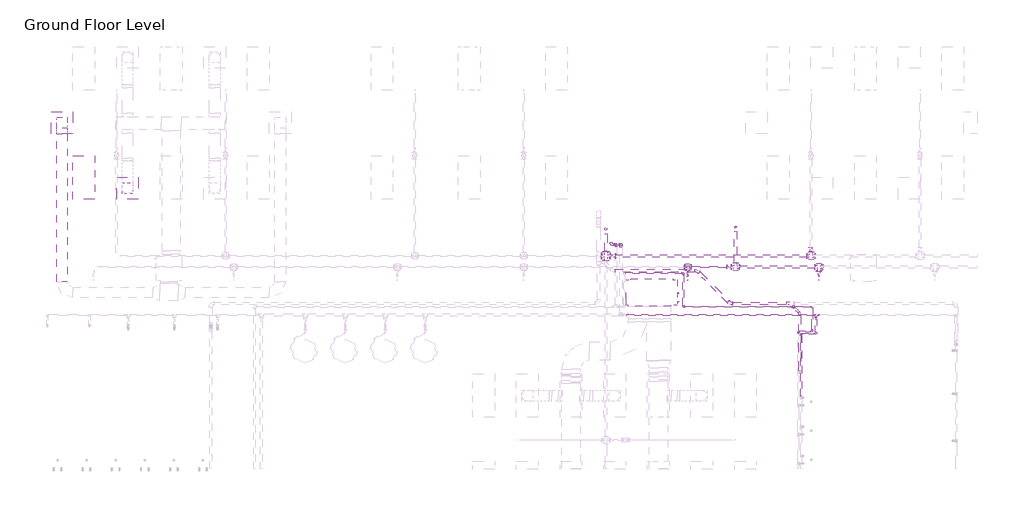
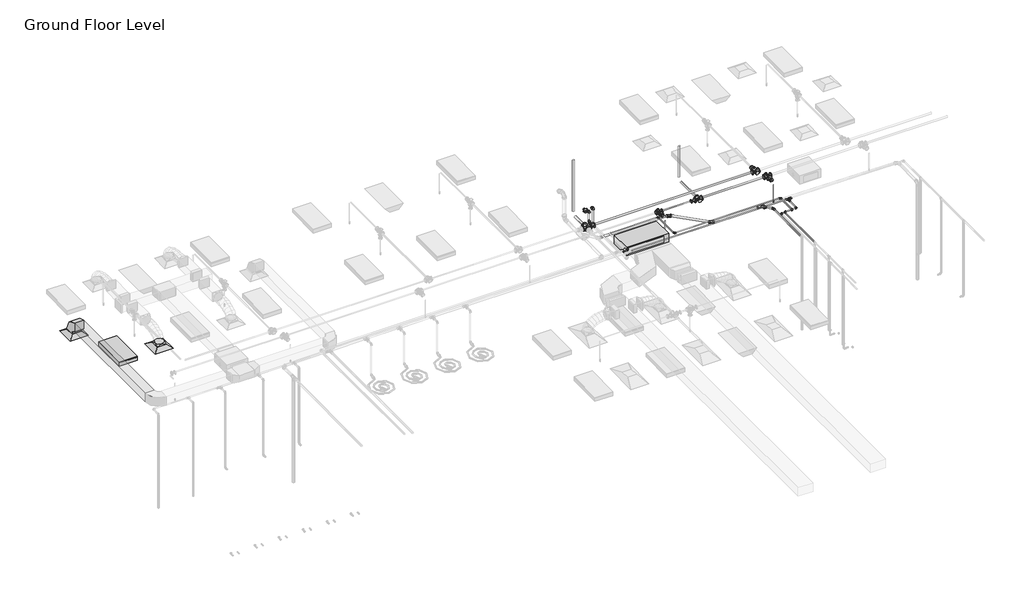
# One storey, part 51 of 66: 31 pipe fittings, 27 pipe segments, 2 air terminals, 2 duct fittings, 2 duct segments, 2 fire suppression terminals, 1 light fixture, 1 proxy.
"""IFC4 building model written with IfcOpenShell, lengths in millimetres."""

from ifc_helpers import new_model, si_unit, point, frame, frame_2d, origin, place, context, project, spatial, polyline, circle_curve, trimmed, segment, composite_curve, outline, extrude, transform, mapped, element, save
from components import m_return_diffuser_600_x_600_face_300_x_300_connection_ff221211, fcu_daikin_iu_5a1bd61d, m_rectangular_elbow_radius_1_w_618da153, m_rectangular_to_round_transition_angle_45_degree_641efff0, m_sprinkler_pendent_15_mm_pendent_06fcbd8e, m_troffer_light_parabolic_rectangular1_0600x1200mm_4_lamp_86473d4a, m_bend_pvc_sch_40_dwv_standard_9e3ead78, m_bend_pvc_sch_40_dwv_standard_3e306cb9, m_cross_flanged_cs_class_150_standard_72237f6b, m_reducer_flanged_cs_class_150_standard_ccf252ad, m_reducer_flanged_cs_class_150_standard_a7631c35, m_reducer_flanged_cs_class_150_standard_55262df0, m_reducer_flanged_cs_class_150_standard_50093ec8, m_reducer_pvc_sch_40_dwv_standard_daff2b06, m_tee_pvc_sch_40_standard_5dbb3026, m_tee_round_base_flanged_cs_class_150_standard_dd767e04, m_tee_round_base_flanged_cs_class_150_standard_7e5987a1, standard_517a5a8d, standard_08ff6011, standard_d0d0b892, standard_57727813, standard_102e5625

model = new_model("IFC4")

# Units and contexts
model_context = context("Model", 3, world=origin())
ifc_project = project(units=[si_unit("LENGTHUNIT", "METRE", prefix="MILLI")], contexts=[model_context])

# Site, building, storey
site = spatial("IfcSite", under=ifc_project)
building = spatial("IfcBuilding", under=site)
storey = spatial("IfcBuildingStorey", under=building, Name="Ground Floor Level", Elevation=900.0)

# Air terminals
placement = place(None, origin())
m_return_diffuser_600_x_600_face_300_x_300_connection_shape = m_return_diffuser_600_x_600_face_300_x_300_connection_ff221211(model_context)
element("IfcAirTerminal", 1, ObjectType="M_Return Diffuser : 600 x 600 Face 300 x 300 Connection", at=placement, inside=storey, context=model_context, shape_type="MappedRepresentation", body=[
    mapped(m_return_diffuser_600_x_600_face_300_x_300_connection_shape, transform((-20937.2327605, 18735.2153534, 3650.0), x_axis=(1.0, 0.0, 0.0), y_axis=(0.0, 1.0, 0.0), z_axis=(0.0, 0.0, 1.0))),
])
element("IfcAirTerminal", 2, ObjectType="M_Supply Diffuser : 600 x 600 Face 300 x 300 Connection", at=placement, inside=storey, context=model_context, shape_type="MappedRepresentation", body=[
    mapped(m_return_diffuser_600_x_600_face_300_x_300_connection_shape, transform((-19137.2327605, 16935.2153534, 3650.0), x_axis=(1.0, 0.0, 0.0), y_axis=(0.0, 1.0, 0.0), z_axis=(0.0, 0.0, 1.0))),
])

# Proxy
fcu_daikin_iu_shape = fcu_daikin_iu_5a1bd61d(model_context)
element("IfcBuildingElementProxy", 3, Name="FCU-DAIKIN IU : 12.9kW, 230V/50Hz/1Ph", ObjectType="FCU-DAIKIN IU : 12.9kW, 230V/50Hz/1Ph", at=placement, inside=storey, context=model_context, shape_type="MappedRepresentation", body=[
    mapped(fcu_daikin_iu_shape, transform((-4715.1910789, 14069.8153534, 3984.0925223), x_axis=(1.0, 0.0, 0.0), y_axis=(0.0, 1.0, 0.0), z_axis=(0.0, 0.0, 1.0))),
])

# Duct fittings
m_rectangular_elbow_radius_1_w_shape = m_rectangular_elbow_radius_1_w_618da153(model_context)
element("IfcDuctFitting", 4, ObjectType="M_Rectangular Elbow - Radius : 1 W", at=placement, inside=storey, context=model_context, shape_type="MappedRepresentation", body=[
    mapped(m_rectangular_elbow_radius_1_w_shape, transform((-20937.2327605, 18735.2153534, 4075.2881511), x_axis=(0.0, 0.0, 1.0), y_axis=(0.0, -1.0, 0.0), z_axis=(1.0, 0.0, 0.0))),
])
m_rectangular_to_round_transition_angle_45_degree_shape = m_rectangular_to_round_transition_angle_45_degree_641efff0(model_context)
element("IfcDuctFitting", 5, ObjectType="M_Rectangular to Round Transition - Angle : 45 Degree", at=placement, inside=storey, context=model_context, shape_type="MappedRepresentation", body=[
    mapped(m_rectangular_to_round_transition_angle_45_degree_shape, transform((-19137.2327605, 16935.2153534, 3751.6), x_axis=(0.0, 0.0, 1.0), y_axis=(-1.0, 0.0, 0.0), z_axis=(0.0, -1.0, 0.0))),
])

# Duct segments
element("IfcDuctSegment", 6, ObjectType="Radius Elbows / Taps", at=placement, inside=storey, context=model_context, shape_type="SweptSolid", body=[
    extrude(outline(polyline([(-20787.2327605, 14369.8153534), (-21087.2327605, 14369.8153534), (-21087.2327605, 18435.2153534), (-20787.2327605, 18435.2153534), (-20787.2327605, 14369.8153534)])), frame((0.0, 0.0, 3925.2881511), z_axis=(0.0, 0.0, 1.0), x_axis=(1.0, 0.0, 0.0)), (0.0, 0.0, 1.0), 300.0),
])
element("IfcDuctSegment", 7, ObjectType="Radius Elbows / Taps", at=placement, inside=storey, context=model_context, shape_type="SweptSolid", body=[
    extrude(outline(polyline([(-20787.2327605, 18585.2153534), (-21087.2327605, 18585.2153534), (-21087.2327605, 18885.2153534), (-20787.2327605, 18885.2153534), (-20787.2327605, 18585.2153534)])), frame((0.0, 0.0, 3751.6), z_axis=(0.0, 0.0, 1.0), x_axis=(1.0, 0.0, 0.0)), (0.0, 0.0, 1.0), 23.6881511),
])

# Fire suppression terminals
m_sprinkler_pendent_15_mm_pendent_shape = m_sprinkler_pendent_15_mm_pendent_06fcbd8e(model_context)
element("IfcFireSuppressionTerminal", 8, ObjectType="M_Sprinkler - Pendent : 15 mm Pendent", at=placement, inside=storey, context=model_context, shape_type="MappedRepresentation", body=[
    mapped(m_sprinkler_pendent_15_mm_pendent_shape, transform((-3723.9852405, 14413.1701264, 3650.0), x_axis=(1.0, 0.0, 0.0), y_axis=(0.0, 1.0, 0.0), z_axis=(0.0, 0.0, 1.0))),
])
element("IfcFireSuppressionTerminal", 9, ObjectType="M_Sprinkler - Pendent : 15 mm Pendent", at=placement, inside=storey, context=model_context, shape_type="MappedRepresentation", body=[
    mapped(m_sprinkler_pendent_15_mm_pendent_shape, transform((-118.3252882, 14412.7243649, 3650.0), x_axis=(1.0, 0.0, 0.0), y_axis=(0.0, 1.0, 0.0), z_axis=(0.0, 0.0, 1.0))),
])

# Light fixture
m_troffer_light_parabolic_rectangular1_0600x1200mm_4_lamp_shape = m_troffer_light_parabolic_rectangular1_0600x1200mm_4_lamp_86473d4a(model_context)
element("IfcLightFixture", 10, ObjectType="M_Troffer Light - Parabolic Rectangular1 : 0600x1200mm(4 Lamp) - 277V 2", at=placement, inside=storey, context=model_context, shape_type="MappedRepresentation", body=[
    mapped(m_troffer_light_parabolic_rectangular1_0600x1200mm_4_lamp_shape, transform((-20396.6986926, 17253.918855, 3650.0), x_axis=(0.0, 1.0, 0.0), y_axis=(-1.0, 0.0, 0.0), z_axis=(0.0, 0.0, 1.0))),
])

# Pipe fittings
m_bend_pvc_sch_40_dwv_standard_shape = m_bend_pvc_sch_40_dwv_standard_9e3ead78(model_context)
element("IfcPipeFitting", 11, ObjectType="M_Bend - PVC - Sch 40 - DWV : Standard", at=placement, inside=storey, context=model_context, shape_type="MappedRepresentation", body=[
    mapped(m_bend_pvc_sch_40_dwv_standard_shape, transform((-3461.339311, 14668.7334723, 4139.7239678), x_axis=(-0.707093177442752, 0.7070575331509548, 0.009427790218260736), y_axis=(-0.7070496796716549, -0.7071481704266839, 0.004713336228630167), z_axis=(0.009999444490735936, -0.003333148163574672, 0.9999444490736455))),
])
element("IfcPipeFitting", 12, ObjectType="M_Bend - PVC - Sch 40 - DWV : Standard", at=placement, inside=storey, context=model_context, shape_type="MappedRepresentation", body=[
    mapped(m_bend_pvc_sch_40_dwv_standard_shape, transform((-2561.2921336, 13768.7316659, 4127.72349), x_axis=(0.7070931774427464, -0.7070575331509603, -0.009427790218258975), y_axis=(0.7070496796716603, 0.7071481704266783, -0.0047133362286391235), z_axis=(0.009999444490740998, -0.003333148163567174, 0.9999444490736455))),
])
m_bend_pvc_sch_40_dwv_standard_2_shape = m_bend_pvc_sch_40_dwv_standard_3e306cb9(model_context)
element("IfcPipeFitting", 13, ObjectType="M_Bend - PVC - Sch 40 - DWV : Standard", at=placement, inside=storey, context=model_context, shape_type="MappedRepresentation", body=[
    mapped(m_bend_pvc_sch_40_dwv_standard_2_shape, transform((-642.2357232, 13495.4654482, 4110.1731446), x_axis=(0.0, 0.9999500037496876, 0.009999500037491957), y_axis=(-0.9999912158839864, -4.191228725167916e-05, 0.004191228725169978), z_axis=(0.004191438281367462, -0.00999941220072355, 0.9999412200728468))),
])
m_cross_flanged_cs_class_150_standard_shape = m_cross_flanged_cs_class_150_standard_72237f6b(model_context)
element("IfcPipeFitting", 14, ObjectType="M_Cross - Flanged - CS - Class 150 : Standard", at=placement, inside=storey, context=model_context, shape_type="MappedRepresentation", body=[
    mapped(m_cross_flanged_cs_class_150_standard_shape, transform((-5978.130502, 15073.2009828, 4360.0), x_axis=(-1.0, 0.0, 0.0), y_axis=(0.0, -1.0, 0.0), z_axis=(0.0, 0.0, 1.0))),
])
m_reducer_flanged_cs_class_150_standard_shape = m_reducer_flanged_cs_class_150_standard_ccf252ad(model_context)
element("IfcPipeFitting", 15, ObjectType="M_Reducer - Flanged - CS - Class 150 : Standard", at=placement, inside=storey, context=model_context, shape_type="MappedRepresentation", body=[
    mapped(m_reducer_flanged_cs_class_150_standard_shape, transform((-3723.9852405, 14672.759591, 4291.0943441), x_axis=(0.0, -1.0, 0.0), y_axis=(1.0, 0.0, 0.0), z_axis=(0.0, 0.0, 1.0))),
])
m_reducer_flanged_cs_class_150_standard_2_shape = m_reducer_flanged_cs_class_150_standard_a7631c35(model_context)
element("IfcPipeFitting", 16, ObjectType="M_Reducer - Flanged - CS - Class 150 : Standard", at=placement, inside=storey, context=model_context, shape_type="MappedRepresentation", body=[
    mapped(m_reducer_flanged_cs_class_150_standard_2_shape, transform((-2527.9259545, 14773.4681847, 4291.0943441), x_axis=(-1.0, 0.0, 0.0), y_axis=(0.0, -1.0, 0.0), z_axis=(0.0, 0.0, 1.0))),
])
element("IfcPipeFitting", 17, ObjectType="M_Reducer - Flanged - CS - Class 150 : Standard", at=placement, inside=storey, context=model_context, shape_type="MappedRepresentation", body=[
    mapped(m_reducer_flanged_cs_class_150_standard_2_shape, transform((-337.2327605, 15187.2009828, 4360.0), x_axis=(0.0, 1.0, 0.0), y_axis=(-1.0, 0.0, 0.0), z_axis=(0.0, 0.0, 1.0))),
])
m_reducer_flanged_cs_class_150_standard_3_shape = m_reducer_flanged_cs_class_150_standard_55262df0(model_context)
element("IfcPipeFitting", 18, ObjectType="M_Reducer - Flanged - CS - Class 150 : Standard", at=placement, inside=storey, context=model_context, shape_type="MappedRepresentation", body=[
    mapped(m_reducer_flanged_cs_class_150_standard_3_shape, transform((-118.3252882, 14659.4681847, 4291.0943441), x_axis=(0.0, -1.0, 0.0), y_axis=(1.0, 0.0, 0.0), z_axis=(0.0, 0.0, 1.0))),
])
m_reducer_flanged_cs_class_150_standard_4_shape = m_reducer_flanged_cs_class_150_standard_50093ec8(model_context)
element("IfcPipeFitting", 19, ObjectType="M_Reducer - Flanged - CS - Class 150 : Standard", at=placement, inside=storey, context=model_context, shape_type="MappedRepresentation", body=[
    mapped(m_reducer_flanged_cs_class_150_standard_4_shape, transform((-5851.130502, 15073.2009828, 4360.0), x_axis=(1.0, 0.0, 0.0), y_axis=(0.0, 1.0, 0.0), z_axis=(0.0, 0.0, 1.0))),
])
m_reducer_pvc_sch_40_dwv_standard_shape = m_reducer_pvc_sch_40_dwv_standard_daff2b06(model_context)
element("IfcPipeFitting", 20, ObjectType="M_Reducer - PVC - Sch 40 - DWV : Standard", at=placement, inside=storey, context=model_context, shape_type="MappedRepresentation", body=[
    mapped(m_reducer_pvc_sch_40_dwv_standard_shape, transform((-843.6840301, 13696.9036229, 4110.2439857), x_axis=(0.7070889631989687, -0.7070533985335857, -0.010034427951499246), y_axis=(0.707053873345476, 0.7071477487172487, -0.004108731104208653), z_axis=(0.010000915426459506, -0.004189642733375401, 0.9999412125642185))),
])
m_tee_pvc_sch_40_standard_shape = m_tee_pvc_sch_40_standard_5dbb3026(model_context)
element("IfcPipeFitting", 21, ObjectType="M_Tee - PVC - Sch 40 : Standard", at=placement, inside=storey, context=model_context, shape_type="MappedRepresentation", body=[
    mapped(m_tee_pvc_sch_40_standard_shape, transform((-915.515686, 13768.7316659, 4111.2633618), x_axis=(-0.9999499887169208, 0.0, 0.010001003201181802), y_axis=(4.190063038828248e-05, 0.9999912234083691, 0.004189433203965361), z_axis=(-0.010000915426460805, 0.004189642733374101, -0.9999412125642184))),
])
m_tee_round_base_flanged_cs_class_150_standard_shape = m_tee_round_base_flanged_cs_class_150_standard_dd767e04(model_context)
element("IfcPipeFitting", 22, ObjectType="M_Tee Round Base - Flanged - CS - Class 150 : Standard", at=placement, inside=storey, context=model_context, shape_type="MappedRepresentation", body=[
    mapped(m_tee_round_base_flanged_cs_class_150_standard_shape, transform((-118.3252882, 14773.4681847, 4291.0943441), x_axis=(-1.0, 0.0, 0.0), y_axis=(0.0, 1.0, 0.0), z_axis=(0.0, 0.0, -1.0))),
])
element("IfcPipeFitting", 23, ObjectType="M_Tee Round Base - Flanged - CS - Class 150 : Standard", at=placement, inside=storey, context=model_context, shape_type="MappedRepresentation", body=[
    mapped(m_tee_round_base_flanged_cs_class_150_standard_shape, transform((-2413.9259545, 14773.4681847, 4291.0943441), x_axis=(-1.0, 0.0, 0.0), y_axis=(0.0, -1.0, 0.0), z_axis=(0.0, 0.0, 1.0))),
])
element("IfcPipeFitting", 24, ObjectType="M_Tee Round Base - Flanged - CS - Class 150 : Standard", at=placement, inside=storey, context=model_context, shape_type="MappedRepresentation", body=[
    mapped(m_tee_round_base_flanged_cs_class_150_standard_shape, transform((-337.2327605, 15073.2009828, 4360.0), x_axis=(-1.0, 0.0, 0.0), y_axis=(0.0, -1.0, 0.0), z_axis=(0.0, 0.0, 1.0))),
])
m_tee_round_base_flanged_cs_class_150_standard_2_shape = m_tee_round_base_flanged_cs_class_150_standard_7e5987a1(model_context)
element("IfcPipeFitting", 25, ObjectType="M_Tee Round Base - Flanged - CS - Class 150 : Standard", at=placement, inside=storey, context=model_context, shape_type="MappedRepresentation", body=[
    mapped(m_tee_round_base_flanged_cs_class_150_standard_2_shape, transform((-3723.9852405, 14773.4681847, 4291.0943441), x_axis=(-1.0, 0.0, 0.0), y_axis=(0.0, 1.0, 0.0), z_axis=(0.0, 0.0, -1.0))),
])
standard_shape = standard_517a5a8d(model_context)
element("IfcPipeFitting", 26, ObjectType="M_Elbow - CPVC - Sch 40 : Standard", at=placement, inside=storey, context=model_context, shape_type="MappedRepresentation", body=[
    mapped(standard_shape, transform((-607.2327605, 12935.5128345, 4315.0), x_axis=(-1.0, 0.0, 0.0), y_axis=(0.0, -1.0, 0.0), z_axis=(0.0, 0.0, 1.0))),
])
element("IfcPipeFitting", 27, ObjectType="M_Elbow - CPVC - Sch 40 : Standard", at=placement, inside=storey, context=model_context, shape_type="MappedRepresentation", body=[
    mapped(standard_shape, transform((-197.2327605, 12935.5128345, 4315.0), x_axis=(1.0, 0.0, 0.0), y_axis=(0.0, 1.0, 0.0), z_axis=(0.0, 0.0, 1.0))),
])
element("IfcPipeFitting", 28, ObjectType="M_Elbow - CPVC - Sch 40 : Standard", at=placement, inside=storey, context=model_context, shape_type="MappedRepresentation", body=[
    mapped(standard_shape, transform((-304.0671674, 13675.2153534, 4250.0), x_axis=(0.0, 1.0, 0.0), y_axis=(-1.0, 0.0, 0.0), z_axis=(0.0, 0.0, 1.0))),
])
element("IfcPipeFitting", 29, ObjectType="M_Elbow - CPVC - Sch 40 : Standard", at=placement, inside=storey, context=model_context, shape_type="MappedRepresentation", body=[
    mapped(standard_shape, transform((-304.0671674, 12995.2153534, 4250.0), x_axis=(1.0, 0.0, 0.0), y_axis=(0.0, 1.0, 0.0), z_axis=(0.0, 0.0, 1.0))),
])
element("IfcPipeFitting", 30, ObjectType="M_Elbow - CPVC - Sch 40 : Standard", at=placement, inside=storey, context=model_context, shape_type="MappedRepresentation", body=[
    mapped(standard_shape, transform((-684.0671674, 12995.2153534, 4250.0), x_axis=(-1.0, 0.0, 0.0), y_axis=(0.0, -1.0, 0.0), z_axis=(0.0, 0.0, 1.0))),
])
element("IfcPipeFitting", 31, ObjectType="M_Elbow - CPVC - Sch 40 : Standard", at=placement, inside=storey, context=model_context, shape_type="MappedRepresentation", body=[
    mapped(standard_shape, transform((-3846.4489567, 14603.43487, 4250.0), x_axis=(0.0, 1.0, 0.0), y_axis=(-1.0, 0.0, 0.0), z_axis=(0.0, 0.0, 1.0))),
])
element("IfcPipeFitting", 32, ObjectType="M_Elbow - CPVC - Sch 40 : Standard", at=placement, inside=storey, context=model_context, shape_type="MappedRepresentation", body=[
    mapped(standard_shape, transform((-3846.4489567, 13675.2153534, 4250.0), x_axis=(0.0, -1.0, 0.0), y_axis=(1.0, 0.0, 0.0), z_axis=(0.0, 0.0, 1.0))),
])
standard_2_shape = standard_08ff6011(model_context)
element("IfcPipeFitting", 33, ObjectType="M_Tee - CPVC - Sch 40 : Standard", at=placement, inside=storey, context=model_context, shape_type="MappedRepresentation", body=[
    mapped(standard_2_shape, transform((-197.2327605, 13449.9865561, 4315.0), x_axis=(1.0, 0.0, 0.0), y_axis=(0.0, 1.0, 0.0), z_axis=(0.0, 0.0, 1.0))),
])
standard_3_shape = standard_d0d0b892(model_context)
element("IfcPipeFitting", 34, ObjectType="M_Coupling Reducing - CPVC - Sch 40 : Standard", at=placement, inside=storey, context=model_context, shape_type="MappedRepresentation", body=[
    mapped(standard_3_shape, transform((-143.2577605, 13449.9865561, 4315.0), x_axis=(1.0, 0.0, 0.0), y_axis=(0.0, 1.0, 0.0), z_axis=(0.0, 0.0, 1.0))),
])
element("IfcPipeFitting", 35, ObjectType="M_Coupling Reducing - CPVC - Sch 40 : Standard", at=placement, inside=storey, context=model_context, shape_type="MappedRepresentation", body=[
    mapped(standard_3_shape, transform((-197.2327605, 13396.0115561, 4315.0), x_axis=(0.0, -1.0, 0.0), y_axis=(1.0, 0.0, 0.0), z_axis=(0.0, 0.0, 1.0))),
])
standard_4_shape = standard_57727813(model_context)
element("IfcPipeFitting", 36, ObjectType="M_Elbow - CPVC - Sch 40 : Standard", at=placement, inside=storey, context=model_context, shape_type="MappedRepresentation", body=[
    mapped(standard_4_shape, transform((-5560.8713756, 15385.5016509, 4719.8375), x_axis=(0.0, 0.0, 1.0), y_axis=(-0.997564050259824, 0.06975647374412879, 0.0), z_axis=(-0.06975647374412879, -0.997564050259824, 0.0))),
])
element("IfcPipeFitting", 37, ObjectType="M_Elbow - CPVC - Sch 40 : Standard", at=placement, inside=storey, context=model_context, shape_type="MappedRepresentation", body=[
    mapped(standard_4_shape, transform((-5831.0029399, 15389.9865561, 4719.8375), x_axis=(0.0, -1.0, 0.0), y_axis=(1.0, 0.0, 0.0), z_axis=(0.0, 0.0, 1.0))),
])
element("IfcPipeFitting", 38, ObjectType="M_Elbow - CPVC - Sch 40 : Standard", at=placement, inside=storey, context=model_context, shape_type="MappedRepresentation", body=[
    mapped(standard_4_shape, transform((-5560.8713756, 15385.5016509, 4090.0), x_axis=(0.0, 0.0, -1.0), y_axis=(0.0, -1.0, 0.0), z_axis=(-1.0, 0.0, 0.0))),
])
standard_5_shape = standard_102e5625(model_context)
element("IfcPipeFitting", 39, ObjectType="M_Elbow - CPVC - Sch 40 : Standard", at=placement, inside=storey, context=model_context, shape_type="MappedRepresentation", body=[
    mapped(standard_5_shape, transform((-5698.3060147, 15389.9865561, 4250.0), x_axis=(0.0, 1.0, 0.0), y_axis=(0.0, 0.0, 1.0), z_axis=(1.0, 0.0, 0.0))),
])
element("IfcPipeFitting", 40, ObjectType="M_Elbow - CPVC - Sch 40 : Standard", at=placement, inside=storey, context=model_context, shape_type="MappedRepresentation", body=[
    mapped(standard_5_shape, transform((-5698.3060147, 15389.9865561, 4650.0), x_axis=(0.0, 0.0, 1.0), y_axis=(-1.0, 0.0, 0.0), z_axis=(0.0, -1.0, 0.0))),
])
element("IfcPipeFitting", 41, ObjectType="M_Elbow - CPVC - Sch 40 : Standard", at=placement, inside=storey, context=model_context, shape_type="MappedRepresentation", body=[
    mapped(standard_5_shape, transform((-5831.0029399, 15389.9865561, 4650.0), x_axis=(0.0, -1.0, 0.0), y_axis=(1.0, 0.0, 0.0), z_axis=(0.0, 0.0, 1.0))),
])

# Pipe segments
element("IfcPipeSegment", 42, ObjectType="CPVC", at=placement, inside=storey, context=model_context, shape_type="SweptSolid", body=[
    extrude(outline(composite_curve([segment(trimmed(circle_curve(frame_2d((4315.0, -607.2327605)), 16.7005), [point((4315.0, -590.5322605))], [point((4331.7005, -607.2327605))], False, "CARTESIAN"), True, "CONTINUOUS"), segment(trimmed(circle_curve(frame_2d((4315.0, -607.2327605)), 16.7005), [point((4331.7005, -607.2327605))], [point((4315.0, -623.9332605))], False, "CARTESIAN"), True, "CONTINUOUS"), segment(trimmed(circle_curve(frame_2d((4315.0, -607.2327605)), 16.7005), [point((4315.0, -623.9332605))], [point((4298.2995, -607.2327605))], False, "CARTESIAN"), True, "CONTINUOUS"), segment(trimmed(circle_curve(frame_2d((4315.0, -607.2327605)), 16.7005), [point((4298.2995, -607.2327605))], [point((4315.0, -590.5322605))], False, "CARTESIAN"), True, "CONTINUOUS")], self_intersect=False)), frame((0.0, 11215.2130345, 0.0), z_axis=(0.0, 1.0, 0.0), x_axis=(0.0, 0.0, 1.0)), (0.0, 0.0, 1.0), 1677.03725),
])
element("IfcPipeSegment", 43, ObjectType="CPVC", at=placement, inside=storey, context=model_context, shape_type="SweptSolid", body=[
    extrude(outline(composite_curve([segment(trimmed(circle_curve(frame_2d((12935.5128345, 4315.0)), 16.7005), [point((12918.8123345, 4315.0))], [point((12935.5128345, 4331.7005))], False, "CARTESIAN"), True, "CONTINUOUS"), segment(trimmed(circle_curve(frame_2d((12935.5128345, 4315.0)), 16.7005), [point((12935.5128345, 4331.7005))], [point((12952.2133345, 4315.0))], False, "CARTESIAN"), True, "CONTINUOUS"), segment(trimmed(circle_curve(frame_2d((12935.5128345, 4315.0)), 16.7005), [point((12952.2133345, 4315.0))], [point((12935.5128345, 4298.2995))], False, "CARTESIAN"), True, "CONTINUOUS"), segment(trimmed(circle_curve(frame_2d((12935.5128345, 4315.0)), 16.7005), [point((12935.5128345, 4298.2995))], [point((12918.8123345, 4315.0))], False, "CARTESIAN"), True, "CONTINUOUS")], self_intersect=False)), frame((-563.9702105, 0.0, 0.0), z_axis=(1.0, 0.0, 0.0), x_axis=(0.0, 1.0, 0.0)), (0.0, 0.0, 1.0), 323.4749),
])
element("IfcPipeSegment", 44, ObjectType="CPVC", at=placement, inside=storey, context=model_context, shape_type="SweptSolid", body=[
    extrude(outline(composite_curve([segment(trimmed(circle_curve(frame_2d((4315.0, -197.2327605)), 16.7005), [point((4315.0, -180.5322605))], [point((4331.7005, -197.2327605))], False, "CARTESIAN"), True, "CONTINUOUS"), segment(trimmed(circle_curve(frame_2d((4315.0, -197.2327605)), 16.7005), [point((4331.7005, -197.2327605))], [point((4315.0, -213.9332605))], False, "CARTESIAN"), True, "CONTINUOUS"), segment(trimmed(circle_curve(frame_2d((4315.0, -197.2327605)), 16.7005), [point((4315.0, -213.9332605))], [point((4298.2995, -197.2327605))], False, "CARTESIAN"), True, "CONTINUOUS"), segment(trimmed(circle_curve(frame_2d((4315.0, -197.2327605)), 16.7005), [point((4298.2995, -197.2327605))], [point((4315.0, -180.5322605))], False, "CARTESIAN"), True, "CONTINUOUS")], self_intersect=False)), frame((0.0, 12978.7753845, 0.0), z_axis=(0.0, 1.0, 0.0), x_axis=(0.0, 0.0, 1.0)), (0.0, 0.0, 1.0), 351.1172966),
])
element("IfcPipeSegment", 45, ObjectType="CPVC", at=placement, inside=storey, context=model_context, shape_type="SweptSolid", body=[
    extrude(outline(composite_curve([segment(trimmed(circle_curve(frame_2d((13449.9865561, 4315.0)), 21.082), [point((13471.0685561, 4315.0))], [point((13449.9865561, 4293.918))], False, "CARTESIAN"), True, "CONTINUOUS"), segment(trimmed(circle_curve(frame_2d((13449.9865561, 4315.0)), 21.082), [point((13449.9865561, 4293.918))], [point((13428.9045561, 4315.0))], False, "CARTESIAN"), True, "CONTINUOUS"), segment(trimmed(circle_curve(frame_2d((13449.9865561, 4315.0)), 21.082), [point((13428.9045561, 4315.0))], [point((13449.9865561, 4336.082))], False, "CARTESIAN"), True, "CONTINUOUS"), segment(trimmed(circle_curve(frame_2d((13449.9865561, 4315.0)), 21.082), [point((13449.9865561, 4336.082))], [point((13471.0685561, 4315.0))], False, "CARTESIAN"), True, "CONTINUOUS")], self_intersect=False)), frame((-5401.6556136, 0.0, 0.0), z_axis=(1.0, 0.0, 0.0), x_axis=(0.0, 1.0, 0.0)), (0.0, 0.0, 1.0), 5150.4478531),
])
element("IfcPipeSegment", 46, ObjectType="CPVC", at=placement, inside=storey, context=model_context, shape_type="SweptSolid", body=[
    extrude(outline(composite_curve([segment(trimmed(circle_curve(frame_2d((-5698.3060147, 15389.9865561)), 24.13), [point((-5722.4360147, 15389.9865561))], [point((-5698.3060147, 15414.1165561))], False, "CARTESIAN"), True, "CONTINUOUS"), segment(trimmed(circle_curve(frame_2d((-5698.3060147, 15389.9865561)), 24.13), [point((-5698.3060147, 15414.1165561))], [point((-5674.1760147, 15389.9865561))], False, "CARTESIAN"), True, "CONTINUOUS"), segment(trimmed(circle_curve(frame_2d((-5698.3060147, 15389.9865561)), 24.13), [point((-5674.1760147, 15389.9865561))], [point((-5698.3060147, 15365.8565561))], False, "CARTESIAN"), True, "CONTINUOUS"), segment(trimmed(circle_curve(frame_2d((-5698.3060147, 15389.9865561)), 24.13), [point((-5698.3060147, 15365.8565561))], [point((-5722.4360147, 15389.9865561))], False, "CARTESIAN"), True, "CONTINUOUS")], self_intersect=False)), frame((0.0, 0.0, 4312.71895), z_axis=(0.0, 0.0, 1.0), x_axis=(1.0, 0.0, 0.0)), (0.0, 0.0, 1.0), 274.5621),
])
element("IfcPipeSegment", 47, ObjectType="CPVC", at=placement, inside=storey, context=model_context, shape_type="SweptSolid", body=[
    extrude(outline(composite_curve([segment(trimmed(circle_curve(frame_2d((-5560.8713756, 15385.5016509)), 30.1625), [point((-5591.0338756, 15385.5016509))], [point((-5560.8713756, 15415.6641509))], False, "CARTESIAN"), True, "CONTINUOUS"), segment(trimmed(circle_curve(frame_2d((-5560.8713756, 15385.5016509)), 30.1625), [point((-5560.8713756, 15415.6641509))], [point((-5530.7088756, 15385.5016509))], False, "CARTESIAN"), True, "CONTINUOUS"), segment(trimmed(circle_curve(frame_2d((-5560.8713756, 15385.5016509)), 30.1625), [point((-5530.7088756, 15385.5016509))], [point((-5560.8713756, 15355.3391509))], False, "CARTESIAN"), True, "CONTINUOUS"), segment(trimmed(circle_curve(frame_2d((-5560.8713756, 15385.5016509)), 30.1625), [point((-5560.8713756, 15355.3391509))], [point((-5591.0338756, 15385.5016509))], False, "CARTESIAN"), True, "CONTINUOUS")], self_intersect=False)), frame((0.0, 0.0, 4154.29375), z_axis=(0.0, 0.0, 1.0), x_axis=(1.0, 0.0, 0.0)), (0.0, 0.0, 1.0), 501.25),
])
element("IfcPipeSegment", 48, ObjectType="CPVC", at=placement, inside=storey, context=model_context, shape_type="SweptSolid", body=[
    extrude(outline(composite_curve([segment(trimmed(circle_curve(frame_2d((4250.0, -304.0671674)), 16.7005), [point((4250.0, -320.7676674))], [point((4233.2995, -304.0671674))], False, "CARTESIAN"), True, "CONTINUOUS"), segment(trimmed(circle_curve(frame_2d((4250.0, -304.0671674)), 16.7005), [point((4233.2995, -304.0671674))], [point((4250.0, -287.3666674))], False, "CARTESIAN"), True, "CONTINUOUS"), segment(trimmed(circle_curve(frame_2d((4250.0, -304.0671674)), 16.7005), [point((4250.0, -287.3666674))], [point((4266.7005, -304.0671674))], False, "CARTESIAN"), True, "CONTINUOUS"), segment(trimmed(circle_curve(frame_2d((4250.0, -304.0671674)), 16.7005), [point((4266.7005, -304.0671674))], [point((4250.0, -320.7676674))], False, "CARTESIAN"), True, "CONTINUOUS")], self_intersect=False)), frame((0.0, 13038.4779034, 0.0), z_axis=(0.0, 1.0, 0.0), x_axis=(0.0, 0.0, 1.0)), (0.0, 0.0, 1.0), 593.4749),
])
element("IfcPipeSegment", 49, ObjectType="CPVC", at=placement, inside=storey, context=model_context, shape_type="SweptSolid", body=[
    extrude(outline(composite_curve([segment(trimmed(circle_curve(frame_2d((12995.2153534, 4250.0)), 16.7005), [point((13011.9158534, 4250.0))], [point((12995.2153534, 4233.2995))], False, "CARTESIAN"), True, "CONTINUOUS"), segment(trimmed(circle_curve(frame_2d((12995.2153534, 4250.0)), 16.7005), [point((12995.2153534, 4233.2995))], [point((12978.5148534, 4250.0))], False, "CARTESIAN"), True, "CONTINUOUS"), segment(trimmed(circle_curve(frame_2d((12995.2153534, 4250.0)), 16.7005), [point((12978.5148534, 4250.0))], [point((12995.2153534, 4266.7005))], False, "CARTESIAN"), True, "CONTINUOUS"), segment(trimmed(circle_curve(frame_2d((12995.2153534, 4250.0)), 16.7005), [point((12995.2153534, 4266.7005))], [point((13011.9158534, 4250.0))], False, "CARTESIAN"), True, "CONTINUOUS")], self_intersect=False)), frame((-640.8046174, 0.0, 0.0), z_axis=(1.0, 0.0, 0.0), x_axis=(0.0, 1.0, 0.0)), (0.0, 0.0, 1.0), 293.4749),
])
element("IfcPipeSegment", 50, ObjectType="CPVC", at=placement, inside=storey, context=model_context, shape_type="SweptSolid", body=[
    extrude(outline(composite_curve([segment(trimmed(circle_curve(frame_2d((14603.43487, 4250.0)), 16.7005), [point((14620.13537, 4250.0))], [point((14603.43487, 4233.2995))], False, "CARTESIAN"), True, "CONTINUOUS"), segment(trimmed(circle_curve(frame_2d((14603.43487, 4250.0)), 16.7005), [point((14603.43487, 4233.2995))], [point((14586.73437, 4250.0))], False, "CARTESIAN"), True, "CONTINUOUS"), segment(trimmed(circle_curve(frame_2d((14603.43487, 4250.0)), 16.7005), [point((14586.73437, 4250.0))], [point((14603.43487, 4266.7005))], False, "CARTESIAN"), True, "CONTINUOUS"), segment(trimmed(circle_curve(frame_2d((14603.43487, 4250.0)), 16.7005), [point((14603.43487, 4266.7005))], [point((14620.13537, 4250.0))], False, "CARTESIAN"), True, "CONTINUOUS")], self_intersect=False)), frame((-5432.9245515, 0.0, 0.0), z_axis=(1.0, 0.0, 0.0), x_axis=(0.0, 1.0, 0.0)), (0.0, 0.0, 1.0), 1543.2130448),
])
element("IfcPipeSegment", 51, ObjectType="CPVC", at=placement, inside=storey, context=model_context, shape_type="SweptSolid", body=[
    extrude(outline(composite_curve([segment(trimmed(circle_curve(frame_2d((4250.0, -3846.4489567)), 16.7005), [point((4250.0, -3863.1494567))], [point((4233.2995, -3846.4489567))], False, "CARTESIAN"), True, "CONTINUOUS"), segment(trimmed(circle_curve(frame_2d((4250.0, -3846.4489567)), 16.7005), [point((4233.2995, -3846.4489567))], [point((4250.0, -3829.7484567))], False, "CARTESIAN"), True, "CONTINUOUS"), segment(trimmed(circle_curve(frame_2d((4250.0, -3846.4489567)), 16.7005), [point((4250.0, -3829.7484567))], [point((4266.7005, -3846.4489567))], False, "CARTESIAN"), True, "CONTINUOUS"), segment(trimmed(circle_curve(frame_2d((4250.0, -3846.4489567)), 16.7005), [point((4266.7005, -3846.4489567))], [point((4250.0, -3863.1494567))], False, "CARTESIAN"), True, "CONTINUOUS")], self_intersect=False)), frame((0.0, 13718.4779034, 0.0), z_axis=(0.0, 1.0, 0.0), x_axis=(0.0, 0.0, 1.0)), (0.0, 0.0, 1.0), 841.6944166),
])
element("IfcPipeSegment", 52, ObjectType="CPVC", at=placement, inside=storey, context=model_context, shape_type="SweptSolid", body=[
    extrude(outline(composite_curve([segment(trimmed(circle_curve(frame_2d((13675.2153534, 4250.0)), 16.7005), [point((13691.9158534, 4250.0))], [point((13675.2153534, 4233.2995))], False, "CARTESIAN"), True, "CONTINUOUS"), segment(trimmed(circle_curve(frame_2d((13675.2153534, 4250.0)), 16.7005), [point((13675.2153534, 4233.2995))], [point((13658.5148534, 4250.0))], False, "CARTESIAN"), True, "CONTINUOUS"), segment(trimmed(circle_curve(frame_2d((13675.2153534, 4250.0)), 16.7005), [point((13658.5148534, 4250.0))], [point((13675.2153534, 4266.7005))], False, "CARTESIAN"), True, "CONTINUOUS"), segment(trimmed(circle_curve(frame_2d((13675.2153534, 4250.0)), 16.7005), [point((13675.2153534, 4266.7005))], [point((13691.9158534, 4250.0))], False, "CARTESIAN"), True, "CONTINUOUS")], self_intersect=False)), frame((-3803.1864067, 0.0, 0.0), z_axis=(1.0, 0.0, 0.0), x_axis=(0.0, 1.0, 0.0)), (0.0, 0.0, 1.0), 3455.8566893),
])
element("IfcPipeSegment", 53, ObjectType="PVC - DWV", at=placement, inside=storey, context=model_context, shape_type="SweptSolid", body=[
    extrude(outline(composite_curve([segment(trimmed(circle_curve(frame_2d((0.0, 36.5125)), 36.5125), [point((0.0, 73.025))], [point((36.5125001, 36.5125))], False, "CARTESIAN"), True, "CONTINUOUS"), segment(trimmed(circle_curve(frame_2d((0.0, 36.5125)), 36.5125), [point((36.5125001, 36.5125))], [point((0.0, 0.0))], False, "CARTESIAN"), True, "CONTINUOUS"), segment(trimmed(circle_curve(frame_2d((0.0, 36.5125)), 36.5125), [point((0.0, 0.0))], [point((-36.5125, 36.5125))], False, "CARTESIAN"), True, "CONTINUOUS"), segment(trimmed(circle_curve(frame_2d((0.0, 36.5125)), 36.5125), [point((-36.5125, 36.5125))], [point((0.0, 73.025))], False, "CARTESIAN"), True, "CONTINUOUS")], self_intersect=False)), frame((-3534.8278242, 14632.2209723, 4140.4588529), z_axis=(-0.9999500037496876, 0.0, 0.009999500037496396), x_axis=(0.009999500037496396, 0.0, 0.9999500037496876)), (0.0, 0.0, 1.0), 2191.3922916),
])
element("IfcPipeSegment", 54, ObjectType="PVC - DWV", at=placement, inside=storey, context=model_context, shape_type="SweptSolid", body=[
    extrude(outline(composite_curve([segment(trimmed(circle_curve(frame_2d((0.0, -36.5125)), 36.5125), [point((-36.5108772, -36.8567342))], [point((-0.3442341, -0.0016227))], False, "CARTESIAN"), True, "CONTINUOUS"), segment(trimmed(circle_curve(frame_2d((0.0, -36.5125)), 36.5125), [point((-0.3442341, -0.0016227))], [point((36.5108773, -36.1682657))], False, "CARTESIAN"), True, "CONTINUOUS"), segment(trimmed(circle_curve(frame_2d((0.0, -36.5125)), 36.5125), [point((36.5108773, -36.1682657))], [point((0.3442343, -73.0233772))], False, "CARTESIAN"), True, "CONTINUOUS"), segment(trimmed(circle_curve(frame_2d((0.0, -36.5125)), 36.5125), [point((0.3442343, -73.0233772))], [point((-36.5108772, -36.8567342))], False, "CARTESIAN"), True, "CONTINUOUS")], self_intersect=False)), frame((-2613.257958, 13821.1816791, 4091.9071043), z_axis=(-0.7070931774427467, 0.70705753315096, 0.009427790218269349), x_axis=(0.7071203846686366, 0.7070303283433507, 0.00942742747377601)), (0.0, 0.0, 1.0), 1125.8990386),
])
element("IfcPipeSegment", 55, ObjectType="PVC - DWV", at=placement, inside=storey, context=model_context, shape_type="SweptSolid", body=[
    extrude(outline(composite_curve([segment(trimmed(circle_curve(frame_2d((0.0, 24.13)), 24.13), [point((24.13, 24.13))], [point((0.0, 0.0))], False, "CARTESIAN"), True, "CONTINUOUS"), segment(trimmed(circle_curve(frame_2d((0.0, 24.13)), 24.13), [point((0.0, 0.0))], [point((-24.13, 24.13))], False, "CARTESIAN"), True, "CONTINUOUS"), segment(trimmed(circle_curve(frame_2d((0.0, 24.13)), 24.13), [point((-24.13, 24.13))], [point((0.0, 48.26))], False, "CARTESIAN"), True, "CONTINUOUS"), segment(trimmed(circle_curve(frame_2d((0.0, 24.13)), 24.13), [point((0.0, 48.26))], [point((24.13, 24.13))], False, "CARTESIAN"), True, "CONTINUOUS")], self_intersect=False)), frame((-642.2357232, 11917.2058139, 4118.5217547), z_axis=(0.0, 0.9999500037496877, 0.009999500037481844), x_axis=(1.0, 0.0, 0.0)), (0.0, 0.0, 1.0), 1532.0724454),
])
element("IfcPipeSegment", 56, ObjectType="PVC - DWV", at=placement, inside=storey, context=model_context, shape_type="SweptSolid", body=[
    extrude(outline(composite_curve([segment(trimmed(circle_curve(frame_2d((0.0, 24.13)), 24.13), [point((24.1287851, 24.3721308))], [point((0.2421308, 0.0012148))], False, "CARTESIAN"), True, "CONTINUOUS"), segment(trimmed(circle_curve(frame_2d((0.0, 24.13)), 24.13), [point((0.2421308, 0.0012148))], [point((-24.1287851, 23.8878693))], False, "CARTESIAN"), True, "CONTINUOUS"), segment(trimmed(circle_curve(frame_2d((0.0, 24.13)), 24.13), [point((-24.1287851, 23.8878693))], [point((-0.2421307, 48.2587851))], False, "CARTESIAN"), True, "CONTINUOUS"), segment(trimmed(circle_curve(frame_2d((0.0, 24.13)), 24.13), [point((-0.2421307, 48.2587851))], [point((24.1287851, 24.3721308))], False, "CARTESIAN"), True, "CONTINUOUS")], self_intersect=False)), frame((-674.7793513, 13527.6650235, 4134.7625475), z_axis=(-0.7070889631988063, 0.7070533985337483, 0.010034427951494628), x_axis=(0.7071245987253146, 0.707017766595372, 0.010033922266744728)), (0.0, 0.0, 1.0), 171.3992376),
])
element("IfcPipeSegment", 57, ObjectType="PVC - DWV", at=placement, inside=storey, context=model_context, shape_type="SweptSolid", body=[
    extrude(outline(composite_curve([segment(trimmed(circle_curve(frame_2d((0.0, -36.5125)), 36.5125), [point((0.0, -73.025))], [point((-36.5125, -36.5125))], False, "CARTESIAN"), True, "CONTINUOUS"), segment(trimmed(circle_curve(frame_2d((0.0, -36.5125)), 36.5125), [point((-36.5125, -36.5125))], [point((0.0, 0.0))], False, "CARTESIAN"), True, "CONTINUOUS"), segment(trimmed(circle_curve(frame_2d((0.0, -36.5125)), 36.5125), [point((0.0, 0.0))], [point((36.5125, -36.5125))], False, "CARTESIAN"), True, "CONTINUOUS"), segment(trimmed(circle_curve(frame_2d((0.0, -36.5125)), 36.5125), [point((36.5125, -36.5125))], [point((0.0, -73.025))], False, "CARTESIAN"), True, "CONTINUOUS")], self_intersect=False)), frame((-1017.0984673, 13805.2441659, 4112.2793423), z_axis=(-0.9999499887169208, 0.0, 0.010001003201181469), x_axis=(0.010001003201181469, 0.0, 0.9999499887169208)), (0.0, 0.0, 1.0), 1470.7787086),
])
element("IfcPipeSegment", 58, ObjectType="Steel flanged", at=placement, inside=storey, context=model_context, shape_type="SweptSolid", body=[
    extrude(outline(composite_curve([segment(trimmed(circle_curve(frame_2d((-3723.9852405, 14413.1701264)), 10.668), [point((-3734.6532405, 14413.1701264))], [point((-3723.9852405, 14423.8381264))], False, "CARTESIAN"), True, "CONTINUOUS"), segment(trimmed(circle_curve(frame_2d((-3723.9852405, 14413.1701264)), 10.668), [point((-3723.9852405, 14423.8381264))], [point((-3713.3172405, 14413.1701264))], False, "CARTESIAN"), True, "CONTINUOUS"), segment(trimmed(circle_curve(frame_2d((-3723.9852405, 14413.1701264)), 10.668), [point((-3713.3172405, 14413.1701264))], [point((-3723.9852405, 14402.5021264))], False, "CARTESIAN"), True, "CONTINUOUS"), segment(trimmed(circle_curve(frame_2d((-3723.9852405, 14413.1701264)), 10.668), [point((-3723.9852405, 14402.5021264))], [point((-3734.6532405, 14413.1701264))], False, "CARTESIAN"), True, "CONTINUOUS")], self_intersect=False)), frame((0.0, 0.0, 3650.0), z_axis=(0.0, 0.0, 1.0), x_axis=(1.0, 0.0, 0.0)), (0.0, 0.0, 1.0), 548.0857504),
])
element("IfcPipeSegment", 59, ObjectType="Steel flanged", at=placement, inside=storey, context=model_context, shape_type="SweptSolid", body=[
    extrude(outline(composite_curve([segment(trimmed(circle_curve(frame_2d((4291.0943441, -3723.9852405)), 10.668), [point((4291.0943441, -3713.3172405))], [point((4301.7623441, -3723.9852405))], False, "CARTESIAN"), True, "CONTINUOUS"), segment(trimmed(circle_curve(frame_2d((4291.0943441, -3723.9852405)), 10.668), [point((4301.7623441, -3723.9852405))], [point((4291.0943441, -3734.6532405))], False, "CARTESIAN"), True, "CONTINUOUS"), segment(trimmed(circle_curve(frame_2d((4291.0943441, -3723.9852405)), 10.668), [point((4291.0943441, -3734.6532405))], [point((4280.4263441, -3723.9852405))], False, "CARTESIAN"), True, "CONTINUOUS"), segment(trimmed(circle_curve(frame_2d((4291.0943441, -3723.9852405)), 10.668), [point((4280.4263441, -3723.9852405))], [point((4291.0943441, -3713.3172405))], False, "CARTESIAN"), True, "CONTINUOUS")], self_intersect=False)), frame((0.0, 14506.1787201, 0.0), z_axis=(0.0, 1.0, 0.0), x_axis=(0.0, 0.0, 1.0)), (0.0, 0.0, 1.0), 52.5808709),
])
element("IfcPipeSegment", 60, ObjectType="Steel flanged", at=placement, inside=storey, context=model_context, shape_type="SweptSolid", body=[
    extrude(outline(composite_curve([segment(trimmed(circle_curve(frame_2d((-118.3252882, 14412.7243649)), 10.668), [point((-128.9932882, 14412.7243649))], [point((-118.3252882, 14423.3923649))], False, "CARTESIAN"), True, "CONTINUOUS"), segment(trimmed(circle_curve(frame_2d((-118.3252882, 14412.7243649)), 10.668), [point((-118.3252882, 14423.3923649))], [point((-107.6572882, 14412.7243649))], False, "CARTESIAN"), True, "CONTINUOUS"), segment(trimmed(circle_curve(frame_2d((-118.3252882, 14412.7243649)), 10.668), [point((-107.6572882, 14412.7243649))], [point((-118.3252882, 14402.0563649))], False, "CARTESIAN"), True, "CONTINUOUS"), segment(trimmed(circle_curve(frame_2d((-118.3252882, 14412.7243649)), 10.668), [point((-118.3252882, 14402.0563649))], [point((-128.9932882, 14412.7243649))], False, "CARTESIAN"), True, "CONTINUOUS")], self_intersect=False)), frame((0.0, 0.0, 3650.0), z_axis=(0.0, 0.0, 1.0), x_axis=(1.0, 0.0, 0.0)), (0.0, 0.0, 1.0), 548.2668816),
])
element("IfcPipeSegment", 61, ObjectType="Steel flanged", at=placement, inside=storey, context=model_context, shape_type="SweptSolid", body=[
    extrude(outline(composite_curve([segment(trimmed(circle_curve(frame_2d((4291.0943441, -118.3252882)), 10.668), [point((4291.0943441, -107.6572882))], [point((4301.7623441, -118.3252882))], False, "CARTESIAN"), True, "CONTINUOUS"), segment(trimmed(circle_curve(frame_2d((4291.0943441, -118.3252882)), 10.668), [point((4301.7623441, -118.3252882))], [point((4291.0943441, -128.9932882))], False, "CARTESIAN"), True, "CONTINUOUS"), segment(trimmed(circle_curve(frame_2d((4291.0943441, -118.3252882)), 10.668), [point((4291.0943441, -128.9932882))], [point((4280.4263441, -118.3252882))], False, "CARTESIAN"), True, "CONTINUOUS"), segment(trimmed(circle_curve(frame_2d((4291.0943441, -118.3252882)), 10.668), [point((4280.4263441, -118.3252882))], [point((4291.0943441, -107.6572882))], False, "CARTESIAN"), True, "CONTINUOUS")], self_intersect=False)), frame((0.0, 14505.7329586, 0.0), z_axis=(0.0, 1.0, 0.0), x_axis=(0.0, 0.0, 1.0)), (0.0, 0.0, 1.0), 26.7352261),
])
element("IfcPipeSegment", 62, ObjectType="Steel flanged", at=placement, inside=storey, context=model_context, shape_type="SweptSolid", body=[
    extrude(outline(composite_curve([segment(trimmed(circle_curve(frame_2d((14773.4681847, 4291.0943441)), 30.1625), [point((14743.3056847, 4291.0943441))], [point((14773.4681847, 4321.2568441))], False, "CARTESIAN"), True, "CONTINUOUS"), segment(trimmed(circle_curve(frame_2d((14773.4681847, 4291.0943441)), 30.1625), [point((14773.4681847, 4321.2568441))], [point((14803.6306847, 4291.0943441))], False, "CARTESIAN"), True, "CONTINUOUS"), segment(trimmed(circle_curve(frame_2d((14773.4681847, 4291.0943441)), 30.1625), [point((14803.6306847, 4291.0943441))], [point((14773.4681847, 4260.9318441))], False, "CARTESIAN"), True, "CONTINUOUS"), segment(trimmed(circle_curve(frame_2d((14773.4681847, 4291.0943441)), 30.1625), [point((14773.4681847, 4260.9318441))], [point((14743.3056847, 4291.0943441))], False, "CARTESIAN"), True, "CONTINUOUS")], self_intersect=False)), frame((-2299.9259545, 0.0, 0.0), z_axis=(1.0, 0.0, 0.0), x_axis=(0.0, 1.0, 0.0)), (0.0, 0.0, 1.0), 2067.6006663),
])
element("IfcPipeSegment", 63, ObjectType="Steel flanged", at=placement, inside=storey, context=model_context, shape_type="SweptSolid", body=[
    extrude(outline(composite_curve([segment(trimmed(circle_curve(frame_2d((4291.0943441, -2413.9259545)), 30.1625), [point((4291.0943441, -2383.7634545))], [point((4321.2568441, -2413.9259545))], False, "CARTESIAN"), True, "CONTINUOUS"), segment(trimmed(circle_curve(frame_2d((4291.0943441, -2413.9259545)), 30.1625), [point((4321.2568441, -2413.9259545))], [point((4291.0943441, -2444.0884545))], False, "CARTESIAN"), True, "CONTINUOUS"), segment(trimmed(circle_curve(frame_2d((4291.0943441, -2413.9259545)), 30.1625), [point((4291.0943441, -2444.0884545))], [point((4260.9318441, -2413.9259545))], False, "CARTESIAN"), True, "CONTINUOUS"), segment(trimmed(circle_curve(frame_2d((4291.0943441, -2413.9259545)), 30.1625), [point((4260.9318441, -2413.9259545))], [point((4291.0943441, -2383.7634545))], False, "CARTESIAN"), True, "CONTINUOUS")], self_intersect=False)), frame((0.0, 14887.4681847, 0.0), z_axis=(0.0, 1.0, 0.0), x_axis=(0.0, 0.0, 1.0)), (0.0, 0.0, 1.0), 871.5409053),
])
element("IfcPipeSegment", 64, ObjectType="Steel flanged", at=placement, inside=storey, context=model_context, shape_type="SweptSolid", body=[
    extrude(outline(composite_curve([segment(trimmed(circle_curve(frame_2d((14773.4681847, 4291.0943441)), 16.7005), [point((14756.7676847, 4291.0943441))], [point((14773.4681847, 4307.7948441))], False, "CARTESIAN"), True, "CONTINUOUS"), segment(trimmed(circle_curve(frame_2d((14773.4681847, 4291.0943441)), 16.7005), [point((14773.4681847, 4307.7948441))], [point((14790.1686847, 4291.0943441))], False, "CARTESIAN"), True, "CONTINUOUS"), segment(trimmed(circle_curve(frame_2d((14773.4681847, 4291.0943441)), 16.7005), [point((14790.1686847, 4291.0943441))], [point((14773.4681847, 4274.3938441))], False, "CARTESIAN"), True, "CONTINUOUS"), segment(trimmed(circle_curve(frame_2d((14773.4681847, 4291.0943441)), 16.7005), [point((14773.4681847, 4274.3938441))], [point((14756.7676847, 4291.0943441))], False, "CARTESIAN"), True, "CONTINUOUS")], self_intersect=False)), frame((-3623.2766467, 0.0, 0.0), z_axis=(1.0, 0.0, 0.0), x_axis=(0.0, 1.0, 0.0)), (0.0, 0.0, 1.0), 968.3506922),
])
element("IfcPipeSegment", 65, ObjectType="Steel flanged", at=placement, inside=storey, context=model_context, shape_type="SweptSolid", body=[
    extrude(outline(composite_curve([segment(trimmed(circle_curve(frame_2d((-2413.9259545, 15873.00909)), 30.1625), [point((-2444.0884545, 15873.00909))], [point((-2413.9259545, 15903.17159))], False, "CARTESIAN"), True, "CONTINUOUS"), segment(trimmed(circle_curve(frame_2d((-2413.9259545, 15873.00909)), 30.1625), [point((-2413.9259545, 15903.17159))], [point((-2383.7634545, 15873.00909))], False, "CARTESIAN"), True, "CONTINUOUS"), segment(trimmed(circle_curve(frame_2d((-2413.9259545, 15873.00909)), 30.1625), [point((-2383.7634545, 15873.00909))], [point((-2413.9259545, 15842.84659))], False, "CARTESIAN"), True, "CONTINUOUS"), segment(trimmed(circle_curve(frame_2d((-2413.9259545, 15873.00909)), 30.1625), [point((-2413.9259545, 15842.84659))], [point((-2444.0884545, 15873.00909))], False, "CARTESIAN"), True, "CONTINUOUS")], self_intersect=False)), frame((0.0, 0.0, 4405.2754753), z_axis=(0.0, 0.0, 1.0), x_axis=(1.0, 0.0, 0.0)), (0.0, 0.0, 1.0), 1080.7245247),
])
element("IfcPipeSegment", 66, ObjectType="Steel flanged", at=placement, inside=storey, context=model_context, shape_type="SweptSolid", body=[
    extrude(outline(composite_curve([segment(trimmed(circle_curve(frame_2d((4360.0, -5978.130502)), 36.5125), [point((4360.0, -5941.618002))], [point((4396.5125, -5978.130502))], False, "CARTESIAN"), True, "CONTINUOUS"), segment(trimmed(circle_curve(frame_2d((4360.0, -5978.130502)), 36.5125), [point((4396.5125, -5978.130502))], [point((4360.0, -6014.643002))], False, "CARTESIAN"), True, "CONTINUOUS"), segment(trimmed(circle_curve(frame_2d((4360.0, -5978.130502)), 36.5125), [point((4360.0, -6014.643002))], [point((4323.4875, -5978.130502))], False, "CARTESIAN"), True, "CONTINUOUS"), segment(trimmed(circle_curve(frame_2d((4360.0, -5978.130502)), 36.5125), [point((4323.4875, -5978.130502))], [point((4360.0, -5941.618002))], False, "CARTESIAN"), True, "CONTINUOUS")], self_intersect=False)), frame((0.0, 15200.2009828, 0.0), z_axis=(0.0, 1.0, 0.0), x_axis=(0.0, 0.0, 1.0)), (0.0, 0.0, 1.0), 489.2995),
])
element("IfcPipeSegment", 67, ObjectType="Steel flanged", at=placement, inside=storey, context=model_context, shape_type="SweptSolid", body=[
    extrude(outline(composite_curve([segment(trimmed(circle_curve(frame_2d((-5978.130502, 15816.5004828)), 36.5125), [point((-6014.643002, 15816.5004828))], [point((-5978.130502, 15853.0129828))], False, "CARTESIAN"), True, "CONTINUOUS"), segment(trimmed(circle_curve(frame_2d((-5978.130502, 15816.5004828)), 36.5125), [point((-5978.130502, 15853.0129828))], [point((-5941.618002, 15816.5004828))], False, "CARTESIAN"), True, "CONTINUOUS"), segment(trimmed(circle_curve(frame_2d((-5978.130502, 15816.5004828)), 36.5125), [point((-5941.618002, 15816.5004828))], [point((-5978.130502, 15779.9879828))], False, "CARTESIAN"), True, "CONTINUOUS"), segment(trimmed(circle_curve(frame_2d((-5978.130502, 15816.5004828)), 36.5125), [point((-5978.130502, 15779.9879828))], [point((-6014.643002, 15816.5004828))], False, "CARTESIAN"), True, "CONTINUOUS")], self_intersect=False)), frame((0.0, 0.0, 4487.0), z_axis=(0.0, 0.0, 1.0), x_axis=(1.0, 0.0, 0.0)), (0.0, 0.0, 1.0), 1786.0),
])
element("IfcPipeSegment", 68, ObjectType="Steel flanged", at=placement, inside=storey, context=model_context, shape_type="SweptSolid", body=[
    extrude(outline(composite_curve([segment(trimmed(circle_curve(frame_2d((15073.2009828, 4360.0)), 30.1625), [point((15043.0384828, 4360.0))], [point((15073.2009828, 4390.1625))], False, "CARTESIAN"), True, "CONTINUOUS"), segment(trimmed(circle_curve(frame_2d((15073.2009828, 4360.0)), 30.1625), [point((15073.2009828, 4390.1625))], [point((15103.3634828, 4360.0))], False, "CARTESIAN"), True, "CONTINUOUS"), segment(trimmed(circle_curve(frame_2d((15073.2009828, 4360.0)), 30.1625), [point((15103.3634828, 4360.0))], [point((15073.2009828, 4329.8375))], False, "CARTESIAN"), True, "CONTINUOUS"), segment(trimmed(circle_curve(frame_2d((15073.2009828, 4360.0)), 30.1625), [point((15073.2009828, 4329.8375))], [point((15043.0384828, 4360.0))], False, "CARTESIAN"), True, "CONTINUOUS")], self_intersect=False)), frame((-5711.130502, 0.0, 0.0), z_axis=(1.0, 0.0, 0.0), x_axis=(0.0, 1.0, 0.0)), (0.0, 0.0, 1.0), 5259.8977415),
])

save(model, "model.ifc")
